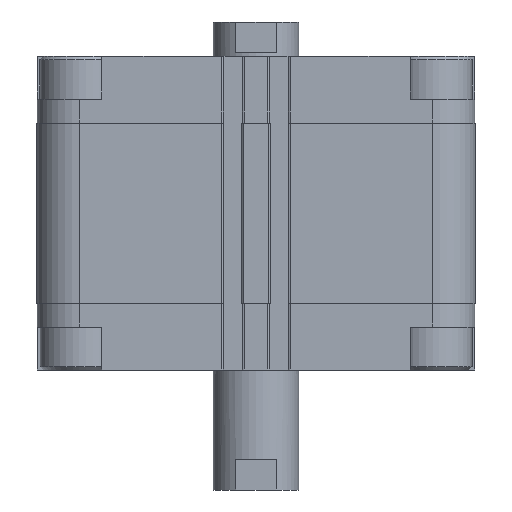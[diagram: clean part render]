
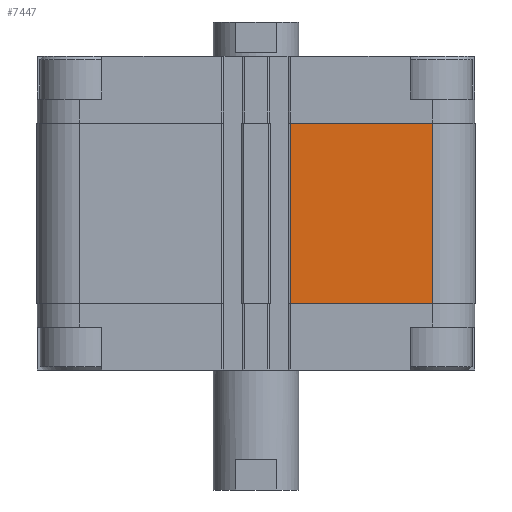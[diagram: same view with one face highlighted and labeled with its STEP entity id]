
A CAD part, front view. The second image highlights one B-rep face of the part: STEP entity #7447.
In plain terms, the highlighted planar face has unit normal (0, -1, 0).
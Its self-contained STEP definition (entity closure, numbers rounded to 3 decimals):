
#216 = EDGE_CURVE ( 'NONE', #19681, #8779, #20616, .T. ) ;
#2062 = LINE ( 'NONE', #16585, #21183 ) ;
#2954 = FACE_OUTER_BOUND ( 'NONE', #3282, .T. ) ;
#3100 = ORIENTED_EDGE ( 'NONE', *, *, #216, .T. ) ;
#3264 = ORIENTED_EDGE ( 'NONE', *, *, #20520, .F. ) ;
#3282 = EDGE_LOOP ( 'NONE', ( #21153, #3264, #3100, #12316 ) ) ;
#3436 = DIRECTION ( 'NONE',  ( 1., 0., 0. ) ) ;
#6114 = VECTOR ( 'NONE', #12141, 1000. ) ;
#7130 = CARTESIAN_POINT ( 'NONE',  ( 51.5, -64., -72. ) ) ;
#7447 = ADVANCED_FACE ( 'NONE', ( #2954 ), #12634, .T. ) ;
#7896 = CARTESIAN_POINT ( 'NONE',  ( 51.5, -64., -19.5 ) ) ;
#7903 = VECTOR ( 'NONE', #3436, 1000. ) ;
#7955 = EDGE_CURVE ( 'NONE', #17136, #10456, #11613, .T. ) ;
#8115 = DIRECTION ( 'NONE',  ( 0., -1., 0. ) ) ;
#8779 = VERTEX_POINT ( 'NONE', #7130 ) ;
#10423 = CARTESIAN_POINT ( 'NONE',  ( 9.95, -64., -72. ) ) ;
#10456 = VERTEX_POINT ( 'NONE', #7896 ) ;
#11611 = CARTESIAN_POINT ( 'NONE',  ( 9.95, -64., -72. ) ) ;
#11613 = LINE ( 'NONE', #18170, #7903 ) ;
#12141 = DIRECTION ( 'NONE',  ( 1., 0., 0. ) ) ;
#12316 = ORIENTED_EDGE ( 'NONE', *, *, #18471, .T. ) ;
#12491 = CARTESIAN_POINT ( 'NONE',  ( 9.95, -64., -19.5 ) ) ;
#12634 = PLANE ( 'NONE',  #13038 ) ;
#13038 = AXIS2_PLACEMENT_3D ( 'NONE', #16293, #8115, #19512 ) ;
#13504 = DIRECTION ( 'NONE',  ( 0., 0., 1. ) ) ;
#16293 = CARTESIAN_POINT ( 'NONE',  ( 9.95, -64., -72. ) ) ;
#16420 = CARTESIAN_POINT ( 'NONE',  ( 51.5, -64., -72. ) ) ;
#16526 = LINE ( 'NONE', #16420, #19546 ) ;
#16585 = CARTESIAN_POINT ( 'NONE',  ( 9.95, -64., -72. ) ) ;
#17136 = VERTEX_POINT ( 'NONE', #12491 ) ;
#18170 = CARTESIAN_POINT ( 'NONE',  ( 9.95, -64., -19.5 ) ) ;
#18471 = EDGE_CURVE ( 'NONE', #8779, #10456, #16526, .T. ) ;
#19512 = DIRECTION ( 'NONE',  ( -1., 0., 0. ) ) ;
#19546 = VECTOR ( 'NONE', #13504, 1000. ) ;
#19681 = VERTEX_POINT ( 'NONE', #11611 ) ;
#19798 = DIRECTION ( 'NONE',  ( 0., 0., 1. ) ) ;
#20520 = EDGE_CURVE ( 'NONE', #19681, #17136, #2062, .T. ) ;
#20616 = LINE ( 'NONE', #10423, #6114 ) ;
#21153 = ORIENTED_EDGE ( 'NONE', *, *, #7955, .F. ) ;
#21183 = VECTOR ( 'NONE', #19798, 1000. ) ;
